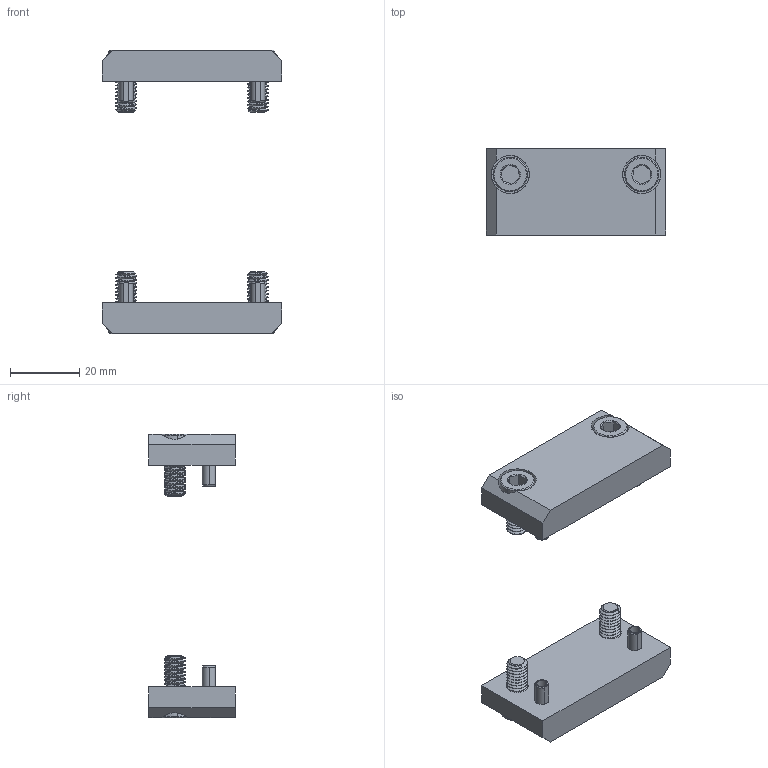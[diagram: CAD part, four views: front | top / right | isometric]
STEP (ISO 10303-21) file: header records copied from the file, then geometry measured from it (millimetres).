
FILE_DESCRIPTION (( 'STEP AP203' ), '1' );
FILE_NAME ('8800837.STEP', '2025-12-08T22:47:10', ( '' ), ( '' ), 'SwSTEP 2.0', 'SolidWorks 2024', '' );
FILE_SCHEMA (( 'CONFIG_CONTROL_DESIGN' ));
Length unit declared in the file: millimetre
Products named in the file (11): 180903-2; 180903; 1803116-3; 8800837; 3201752; 1803116-1; 180903-3; 1803116; 1803116-2; 3201752-1; 180903-1
Assembly tree (10 placements, depth 2):
  8800837
    3201752
    180903
    180903-1
    1803116
    1803116-1
    1803116-2
    180903-2
    1803116-3
    180903-3
    3201752-1
Bounding box: 52 x 25 x 82 mm (x, y, z)
Volume: 22998.8 mm3; surface area: 12529.6 mm2
Topology: 10 solids, 10 shells, 432 faces, 1100 edges, 692 vertices
Faces by surface type: cylinder 252, cone 96, plane 76, bspline 8
Entity records: 19189 total; most frequent: CARTESIAN_POINT 8801, ORIENTED_EDGE 2168, DIRECTION 1730, EDGE_CURVE 1084, VERTEX_POINT 692, AXIS2_PLACEMENT_3D 661, EDGE_LOOP 460, ADVANCED_FACE 432
